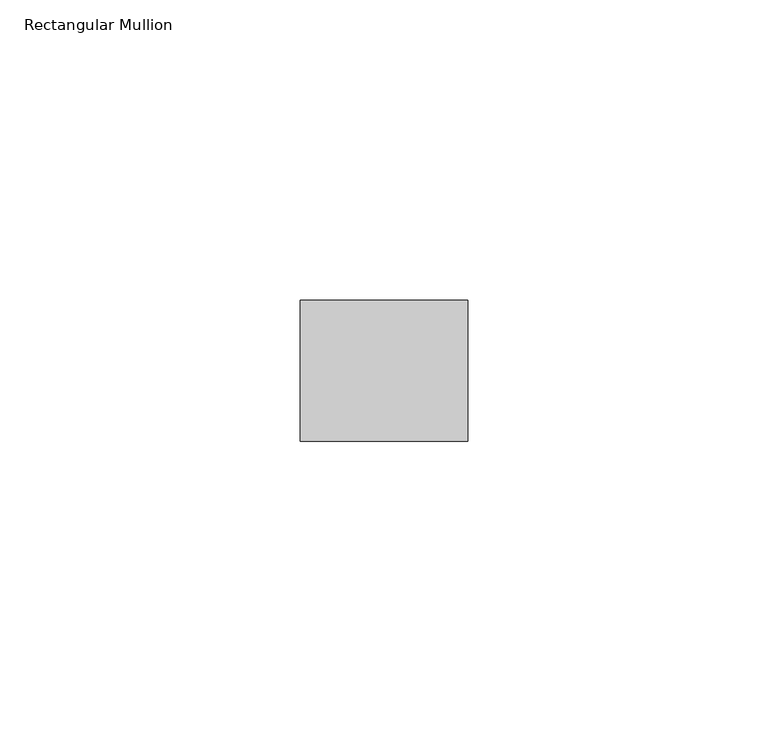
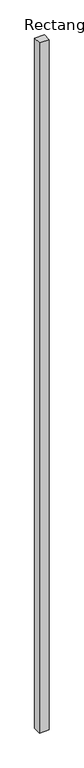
"""IFC4 building model written with IfcOpenShell, lengths in millimetres: member geometry, Rectangular Mullion : Lite Scale Glasing - Base Trim."""

from ifc_helpers import new_model, si_unit, frame, origin, place, context, project, spatial, polyline, outline, extrude, source, transform, mapped, element, save


def rectangular_mullion_b213ceae(model_context):
    return source(origin(), model_context, "Body", "SweptSolid", [
        extrude(outline(polyline([(0.0, -11.7474999), (-27.94, -11.7474999), (-27.94, 11.7474999), (0.0, 11.7474999), (0.0, -11.7474999)])), frame((0.0, 0.0, -2108.2), z_axis=(0.0, 0.0, 1.0), x_axis=(1.0, 0.0, 0.0)), (0.0, 0.0, 1.0), 2108.2),
    ])


if __name__ == "__main__":
    model = new_model("IFC4")
    model_context = context("Model", 3, world=origin())
    ifc_project = project(units=[si_unit("LENGTHUNIT", "METRE", prefix="MILLI")], contexts=[model_context])
    site = spatial("IfcSite", under=ifc_project)
    building = spatial("IfcBuilding", under=site)
    placement = place(None, origin())
    rectangular_mullion_shape = rectangular_mullion_b213ceae(model_context)
    element("IfcMember", 1, ObjectType="Rectangular Mullion : Lite Scale Glasing - Base Trim", at=placement, inside=building, context=model_context, shape_type="MappedRepresentation", body=[
        mapped(rectangular_mullion_shape, transform((0.0, 0.0, 0.0), x_axis=(1.0, 0.0, 0.0), y_axis=(0.0, 1.0, 0.0), z_axis=(0.0, 0.0, 1.0))),
    ])
    save(model, "model.ifc")
